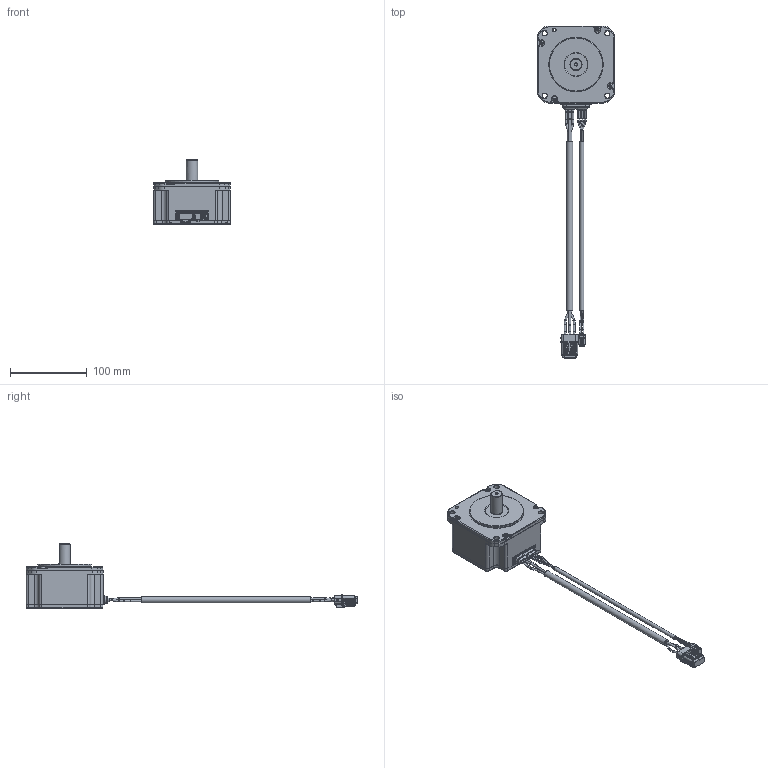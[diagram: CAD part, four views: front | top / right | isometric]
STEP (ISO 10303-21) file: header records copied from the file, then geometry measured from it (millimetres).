
FILE_DESCRIPTION(/* description */ (''),/* implementation_level */ '2;1');
FILE_NAME(/* name */ 'ISB5BZA_外観見本.stp',/* time_stamp */ '2022-11-01T14:09:38+09:00',/* author */ (''),/* organization */ (''),/* preprocessor_version */ 'ST-DEVELOPER v16.7',/* originating_system */ 'SIEMENS PLM Software NX 12.0',/* authorisation */ '');
FILE_SCHEMA (('AUTOMOTIVE_DESIGN { 1 0 10303 214 3 1 1 1 }'));
Products named in the file (1): hott0F4886D2nkrq
Bounding box: 100 x 431.1 x 84.02 mm (x, y, z)
Volume: 526459.4 mm3; surface area: 60638.4 mm2
Topology: 1 solids, 5 shells, 1754 faces, 4392 edges, 2622 vertices
Faces by surface type: cylinder 804, plane 475, torus 291, bspline 97, sphere 60, cone 24, extrusion 3
Full cylindrical faces by diameter (mm): 1 x6, 1.02 x56, 2.7 x26, 3.025 x4, 3.04 x1, 4 x1, 5 x1, 5.25 x8, 6.3 x4, 6.45 x4, 6.5 x4, 8 x1, 10.011 x1, 14.989 x1, 15.004 x1, 30 x1, 69.977 x1
Entity records: 55267 total; most frequent: CARTESIAN_POINT 13717, DIRECTION 8498, ORIENTED_EDGE 8060, EDGE_CURVE 4030, AXIS2_PLACEMENT_3D 3345, VERTEX_POINT 2534, EDGE_LOOP 2049, VECTOR 1808
